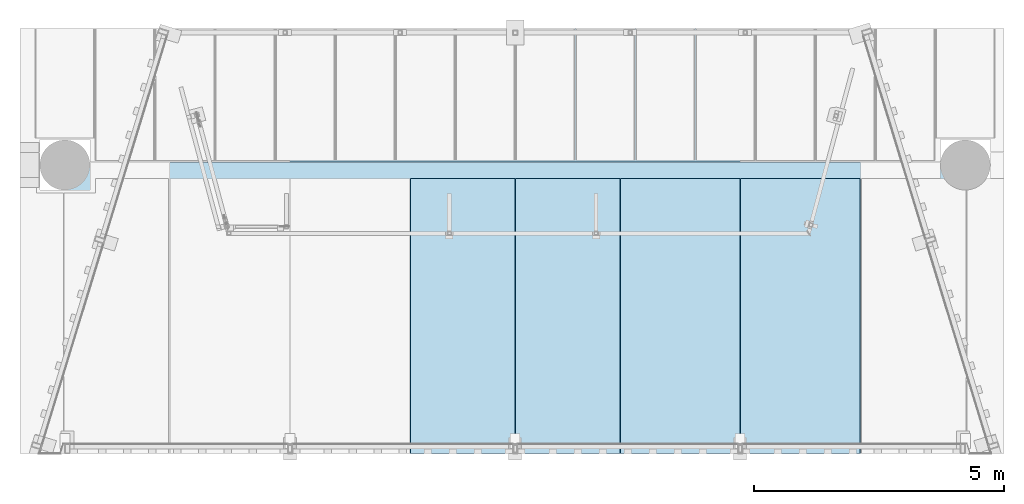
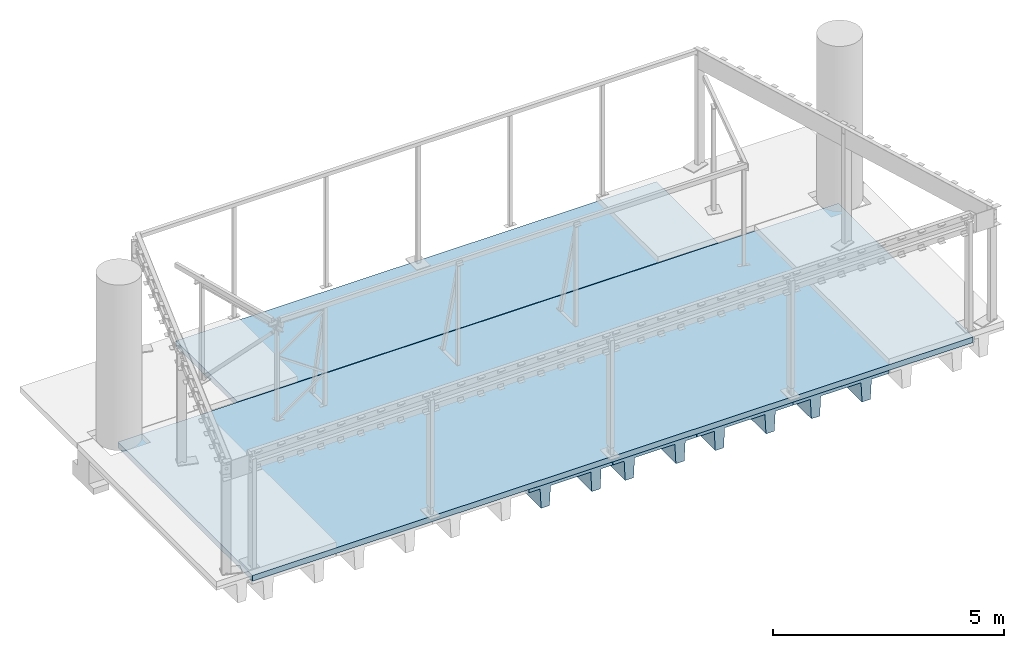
# One storey, part 17 of 19: 6 slabs.
"""IFC2X3 building model written with IfcOpenShell, lengths in millimetres."""

from ifc_helpers import new_model, entity, si_unit, converted_unit, derived_unit, direction, frame, origin_with_axes, place, context, subcontext, project, spatial, faceted_brep, type_object, element, save


model = new_model("IFC2X3")

# Units and contexts
model_context = context("Model", 3, precision=0.01, world=frame((0.0, 4.29681676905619e-09, 0.0)), true_north=direction((4.01073788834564e-13, 1.0)))
plan_context = context("Plan", 3, precision=0.01, world=frame((0.0, 4.29681676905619e-09, 0.0)), true_north=direction((4.01073788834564e-13, 1.0)))
body_context = subcontext(model_context, "Body", "Model", "MODEL_VIEW")
ifc_project = project(units=[converted_unit("PLANEANGLEUNIT", "DEGREE", entity("IfcPositiveLengthMeasure", 0.0174532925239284), si_unit("PLANEANGLEUNIT", "RADIAN"), dimensions=[0, 0, 0, 0, 0, 0, 0]), si_unit("AREAUNIT", "SQUARE_METRE"), si_unit("LENGTHUNIT", "METRE", prefix="MILLI"), si_unit("MASSUNIT", "GRAM", prefix="KILO"), si_unit("POWERUNIT", "WATT"), si_unit("PRESSUREUNIT", "PASCAL", prefix="KILO"), si_unit("FORCEUNIT", "NEWTON", prefix="KILO"), si_unit("ELECTRICVOLTAGEUNIT", "VOLT"), si_unit("ELECTRICCURRENTUNIT", "AMPERE"), si_unit("THERMODYNAMICTEMPERATUREUNIT", "DEGREE_CELSIUS"), si_unit("TIMEUNIT", "SECOND"), si_unit("VOLUMEUNIT", "CUBIC_METRE"), derived_unit("LINEARVELOCITYUNIT", [(si_unit("LENGTHUNIT", "METRE"), 1), (si_unit("TIMEUNIT", "SECOND"), -1)]), derived_unit("VOLUMETRICFLOWRATEUNIT", [(si_unit("VOLUMEUNIT", "CUBIC_METRE"), 1), (si_unit("TIMEUNIT", "SECOND"), -1)]), derived_unit("THERMALTRANSMITTANCEUNIT", [(si_unit("POWERUNIT", "WATT"), 1), (si_unit("THERMODYNAMICTEMPERATUREUNIT", "KELVIN"), -1), (si_unit("AREAUNIT", "SQUARE_METRE"), -1)]), derived_unit("SOUNDPRESSUREUNIT", [(si_unit("PRESSUREUNIT", "PASCAL"), 1)])], contexts=[model_context, plan_context])

# Site, building, storey
site_placement = place(None, frame((0.0, -4.29681676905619e-09, 0.0), z_axis=(0.0, 0.0, 1.0), x_axis=(1.0, 0.0, 0.0)))
site = spatial("IfcSite", under=ifc_project, at=site_placement, Name="Gardermoen", CompositionType="ELEMENT")
building_placement = place(site_placement, frame((0.0, 4.29681676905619e-09, 0.0), z_axis=(0.0, 0.0, 1.0), x_axis=(1.0, 0.0, 0.0)))
building = spatial("IfcBuilding", under=site, at=building_placement, Name="TI", CompositionType="ELEMENT")
storey_placement = place(building_placement, origin_with_axes())
storey = spatial("IfcBuildingStorey", under=building, at=storey_placement, Name="F", CompositionType="ELEMENT", Elevation=0.0)

# Slabs
slab_type_1 = type_object("IfcSlabType", Name="TT600*2394-210-80-1266-0.05-0-0", PredefinedType="NOTDEFINED")
for number, where, z_axis, x_axis, name in (
    (1, (590949.99, 575230.0, 210230.0), (0.0, 0.0, 1.0), (0.0, -1.0, 0.0), "DT"),
    (2, (593049.99, 575230.0, 210230.0), (0.0, 0.0, 1.0), (0.0, -1.0, 0.0), "DT"),
):
    element("IfcSlab", number, at=place(storey_placement, frame(where, z_axis=z_axis, x_axis=x_axis)), inside=storey, type_object=slab_type_1, Name=name, ObjectType="TT600*2394-210-80-1266-0.05-0-0", PredefinedType="FLOOR", context=body_context, shape_type="Brep", body=[
        faceted_brep([(5500.00186890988, -764.0, 220.0), (5500.00186890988, -738.0, -300.0), (0.0, -738.0, -300.0), (0.0, -764.0, 220.0), (5500.00186890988, -528.0, -300.0), (0.0, -528.0, -300.0), (5500.00186890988, -502.0, 220.0), (0.0, -502.0, 220.0), (5500.00186890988, 502.0, 220.0), (0.0, 502.0, 220.0), (5500.00186890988, 528.0, -300.0), (0.0, 528.0, -300.0), (5500.00186890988, 738.0, -300.0), (0.0, 738.0, -300.0), (5500.00186890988, 764.0, 220.0), (0.0, 764.0, 220.0), (5500.00186890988, 1045.00030920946, 220.0), (0.0, 1045.00030920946, 220.0), (5500.00186890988, 1045.00030920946, 300.0), (0.0, 1045.00030920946, 300.0), (5500.00186890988, -1044.99602868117, 220.0), (0.0, -1044.99602868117, 220.0), (0.0, -1044.99602868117, 300.0), (5500.00186890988, -1044.99602868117, 300.0)], [[[0, 1, 2, 3]], [[1, 4, 5, 2]], [[4, 6, 7, 5]], [[6, 8, 9, 7]], [[8, 10, 11, 9]], [[10, 12, 13, 11]], [[12, 14, 15, 13]], [[14, 16, 17, 15]], [[16, 18, 19, 17]], [[20, 0, 3, 21]], [[22, 21, 3, 2, 5, 7, 9, 11, 13, 15, 17, 19]], [[18, 23, 22, 19]], [[23, 20, 21, 22]], [[20, 23, 18, 16, 14, 12, 10, 8, 6, 4, 1, 0]]], orient=[[False], [False], [False], [False], [False], [False], [False], [False], [False], [False], [False], [False], [False], [False]]),
    ])
for number, where, z_axis, x_axis, name in (
    (3, (595300.0, 575230.0, 210230.0), (0.0, 0.0, 1.0), (0.0, -1.0, 0.0), "DT"),
    (4, (597700.0, 575230.0, 210230.0), (0.0, 0.0, 1.0), (0.0, -1.0, 0.0), "DT"),
):
    element("IfcSlab", number, at=place(storey_placement, frame(where, z_axis=z_axis, x_axis=x_axis)), inside=storey, type_object=slab_type_1, Name=name, ObjectType="TT600*2394-210-80-1266-0.05-0-0", PredefinedType="FLOOR", context=body_context, shape_type="Brep", body=[
        faceted_brep([(5500.00186890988, -1197.0, 300.0), (5500.00186890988, -1197.0, 220.0), (0.0, -1197.0, 220.0), (0.0, -1197.0, 300.0), (5500.00186890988, -764.0, 220.0), (0.0, -764.0, 220.0), (5500.00186890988, -738.0, -300.0), (0.0, -738.0, -300.0), (5500.00186890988, -528.0, -300.0), (0.0, -528.0, -300.0), (5500.00186890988, -502.0, 220.0), (0.0, -502.0, 220.0), (5500.00186890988, 502.0, 220.0), (0.0, 502.0, 220.0), (5500.00186890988, 528.0, -300.0), (0.0, 528.0, -300.0), (5500.00186890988, 738.0, -300.0), (0.0, 738.0, -300.0), (5500.00186890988, 764.0, 220.0), (0.0, 764.0, 220.0), (5500.00186890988, 1197.0, 220.0), (0.0, 1197.0, 220.0), (5500.00186890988, 1197.0, 300.0), (0.0, 1197.0, 300.0)], [[[0, 1, 2, 3]], [[1, 4, 5, 2]], [[4, 6, 7, 5]], [[6, 8, 9, 7]], [[8, 10, 11, 9]], [[10, 12, 13, 11]], [[12, 14, 15, 13]], [[14, 16, 17, 15]], [[16, 18, 19, 17]], [[18, 20, 21, 19]], [[20, 22, 23, 21]], [[22, 0, 3, 23]], [[3, 2, 5, 7, 9, 11, 13, 15, 17, 19, 21, 23]], [[22, 20, 18, 16, 14, 12, 10, 8, 6, 4, 1, 0]]], orient=[[False], [False], [False], [False], [False], [False], [False], [False], [False], [False], [False], [False], [False], [False]]),
    ])
slab_type_2 = type_object("IfcSlabType", Name="150*12000", PredefinedType="NOTDEFINED")
slab_1_placement = place(storey_placement, frame((586000.002912, 575565.00011, 210605.0), z_axis=(0.0, 1.0, 0.0), x_axis=(1.0, 0.0, 0.0)))
element("IfcSlab", 5, at=slab_1_placement, inside=storey, type_object=slab_type_2, Name="PÅSTØP", ObjectType="150*12000", PredefinedType="FLOOR", context=body_context, shape_type="Brep", body=[
    faceted_brep([(-8.14883346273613e-07, 75.0, 2662.49988999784), (-8.14791857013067e-07, -75.0, 2662.49988999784), (1.16415321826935e-10, -75.0, 1.16415321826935e-10), (0.0, 75.0, -6.99365045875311e-08), (11999.9928149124, -75.0, 2662.49988999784), (11999.9928149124, 75.0, 2662.49988999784), (11999.9921875, 75.0, -1.14296562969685e-06), (11999.9921875, -75.0, -1.14296562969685e-06)], [[[0, 1, 2, 3]], [[4, 5, 6, 7]], [[6, 3, 2, 7]], [[5, 0, 3, 6]], [[1, 4, 7, 2]], [[5, 4, 1, 0]]], orient=[[False], [False], [False], [False], [False], [False]]),
])
slab_type_3 = type_object("IfcSlabType", Name="150*14550", PredefinedType="NOTDEFINED")
slab_2_placement = place(storey_placement, frame((583002.994692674, 561000.013982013, 210605.0), z_axis=(0.0, 1.0, 0.0), x_axis=(1.0, 0.0, 0.0)))
element("IfcSlab", 6, at=slab_2_placement, inside=storey, type_object=slab_type_3, Name="PÅSTØP", ObjectType="150*14550", PredefinedType="FLOOR", context=body_context, shape_type="Brep", body=[
    faceted_brep([(-1.80539406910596, -75.0, 8729.98414907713), (-1.80539406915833, 75.0, 8729.98414907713), (-3.00899275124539, 75.0, 14549.9863281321), (-3.00899275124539, -75.0, 14549.9863281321), (17996.9902345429, 75.0, 14550.0039060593), (17996.9902345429, -75.0, 14550.0039060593), (17996.9941407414, 75.0, 8729.98414907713), (17996.9941407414, -75.0, 8729.98414907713)], [[[0, 1, 2, 3]], [[2, 4, 5, 3]], [[6, 7, 5, 4]], [[1, 6, 4, 2]], [[7, 0, 3, 5]], [[7, 6, 1, 0]]], orient=[[False], [False], [False], [False], [False], [False]]),
])

save(model, "model.ifc")
